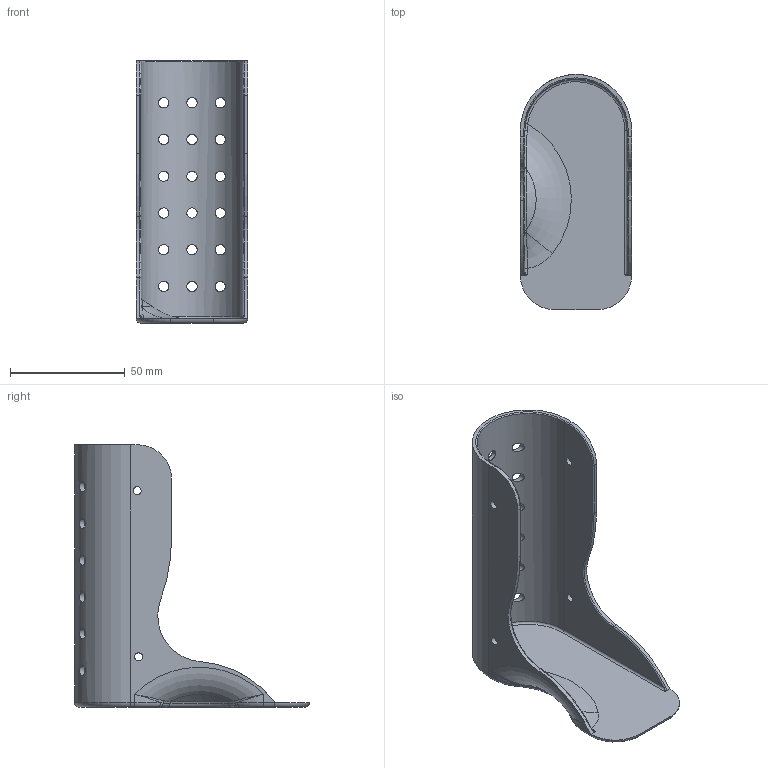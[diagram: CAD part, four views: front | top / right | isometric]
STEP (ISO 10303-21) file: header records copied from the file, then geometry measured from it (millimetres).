
FILE_DESCRIPTION(/* description */ (''),/* implementation_level */ '2;1');
FILE_NAME(/* name */ 'AFO size xs right foot_.step',/* time_stamp */ '2025-11-06T10:26:59+01:00',/* author */ (''),/* organization */ (''),/* preprocessor_version */ 'ST-DEVELOPER v20.1',/* originating_system */ 'Autodesk Translation Framework v14.17.0.0',/* authorisation */ '');
FILE_SCHEMA (('AUTOMOTIVE_DESIGN { 1 0 10303 214 3 1 1 }'));
Length unit declared in the file: millimetre
Products named in the file (1): Size xs right foot
Bounding box: 48.5 x 102.25 x 114.3 mm (x, y, z)
Volume: 34425.9 mm3; surface area: 35579.6 mm2
Topology: 1 solids, 1 shells, 90 faces, 293 edges, 203 vertices
Faces by surface type: cylinder 44, torus 20, bspline 15, plane 9, sphere 2
Full cylindrical faces by diameter (mm): 3.5 x4, 4.5 x18
Entity records: 4928 total; most frequent: CARTESIAN_POINT 2432, ORIENTED_EDGE 582, DIRECTION 408, EDGE_CURVE 291, VERTEX_POINT 203, AXIS2_PLACEMENT_3D 172, EDGE_LOOP 134, B_SPLINE_CURVE_WITH_KNOTS 131
